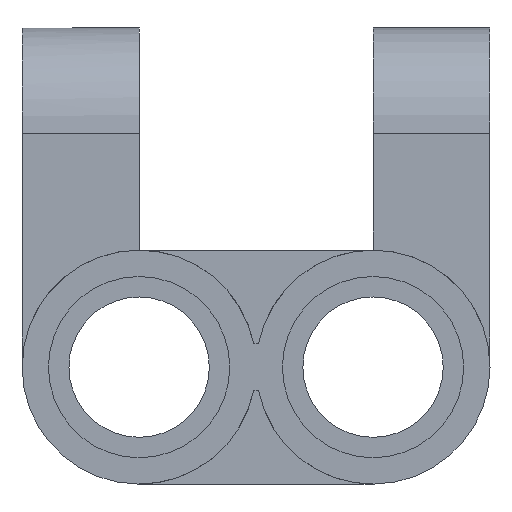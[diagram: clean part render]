
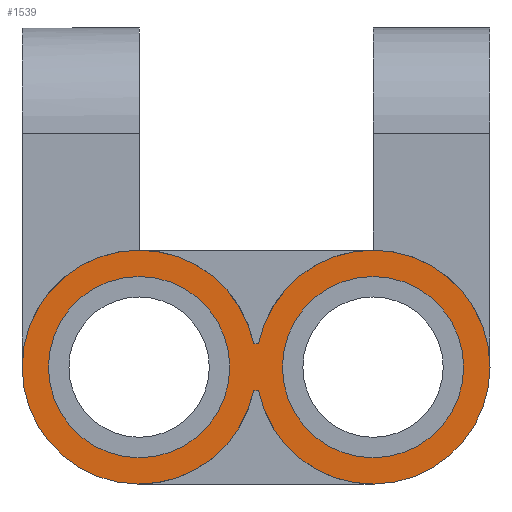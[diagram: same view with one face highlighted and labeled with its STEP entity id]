
A CAD part, front view. The second image highlights one B-rep face of the part: STEP entity #1539.
In plain terms, the highlighted planar face has unit normal (0, -1, 0).
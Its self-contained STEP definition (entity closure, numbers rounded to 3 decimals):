
#120=CIRCLE('',#1696,4.);
#123=CIRCLE('',#1700,4.);
#130=CIRCLE('',#1711,3.1);
#131=CIRCLE('',#1712,3.1);
#334=ORIENTED_EDGE('',*,*,#766,.T.);
#335=ORIENTED_EDGE('',*,*,#767,.T.);
#336=ORIENTED_EDGE('',*,*,#768,.T.);
#337=ORIENTED_EDGE('',*,*,#744,.F.);
#338=ORIENTED_EDGE('',*,*,#769,.T.);
#339=ORIENTED_EDGE('',*,*,#737,.F.);
#737=EDGE_CURVE('',#958,#959,#120,.T.);
#744=EDGE_CURVE('',#964,#965,#123,.T.);
#766=EDGE_CURVE('',#976,#976,#130,.T.);
#767=EDGE_CURVE('',#977,#977,#131,.T.);
#768=EDGE_CURVE('',#958,#965,#1078,.T.);
#769=EDGE_CURVE('',#964,#959,#1079,.T.);
#958=VERTEX_POINT('',#2550);
#959=VERTEX_POINT('',#2552);
#964=VERTEX_POINT('',#2564);
#965=VERTEX_POINT('',#2566);
#976=VERTEX_POINT('',#2603);
#977=VERTEX_POINT('',#2605);
#1078=LINE('',#2606,#1224);
#1079=LINE('',#2607,#1225);
#1224=VECTOR('',#2065,1000.);
#1225=VECTOR('',#2066,1000.);
#1295=EDGE_LOOP('',(#334));
#1296=EDGE_LOOP('',(#335));
#1297=EDGE_LOOP('',(#336,#337,#338,#339));
#1395=FACE_BOUND('',#1295,.T.);
#1396=FACE_BOUND('',#1296,.T.);
#1397=FACE_BOUND('',#1297,.T.);
#1489=PLANE('',#1710);
#1539=ADVANCED_FACE('',(#1395,#1396,#1397),#1489,.F.);
#1696=AXIS2_PLACEMENT_3D('',#2551,#2012,#2013);
#1700=AXIS2_PLACEMENT_3D('',#2565,#2024,#2025);
#1710=AXIS2_PLACEMENT_3D('',#2601,#2059,#2060);
#1711=AXIS2_PLACEMENT_3D('',#2602,#2061,#2062);
#1712=AXIS2_PLACEMENT_3D('',#2604,#2063,#2064);
#2012=DIRECTION('',(0.,1.,0.));
#2013=DIRECTION('',(1.,0.,0.));
#2024=DIRECTION('',(0.,1.,0.));
#2025=DIRECTION('',(-1.,0.,0.));
#2059=DIRECTION('',(0.,1.,0.));
#2060=DIRECTION('',(0.,0.,1.));
#2061=DIRECTION('',(0.,1.,0.));
#2062=DIRECTION('',(1.,0.,0.));
#2063=DIRECTION('',(0.,1.,0.));
#2064=DIRECTION('',(1.,0.,0.));
#2065=DIRECTION('',(1.,0.,0.));
#2066=DIRECTION('',(-1.,0.,0.));
#2550=CARTESIAN_POINT('',(3.919,0.,3.2));
#2551=CARTESIAN_POINT('',(0.,0.,4.));
#2552=CARTESIAN_POINT('',(3.919,0.,4.8));
#2564=CARTESIAN_POINT('',(4.081,0.,4.8));
#2565=CARTESIAN_POINT('',(8.,0.,4.));
#2566=CARTESIAN_POINT('',(4.081,0.,3.2));
#2601=CARTESIAN_POINT('',(0.,0.,4.));
#2602=CARTESIAN_POINT('',(0.,0.,4.));
#2603=CARTESIAN_POINT('',(3.1,0.,4.));
#2604=CARTESIAN_POINT('',(8.,0.,4.));
#2605=CARTESIAN_POINT('',(11.1,0.,4.));
#2606=CARTESIAN_POINT('',(4.,0.,3.2));
#2607=CARTESIAN_POINT('',(4.,0.,4.8));
